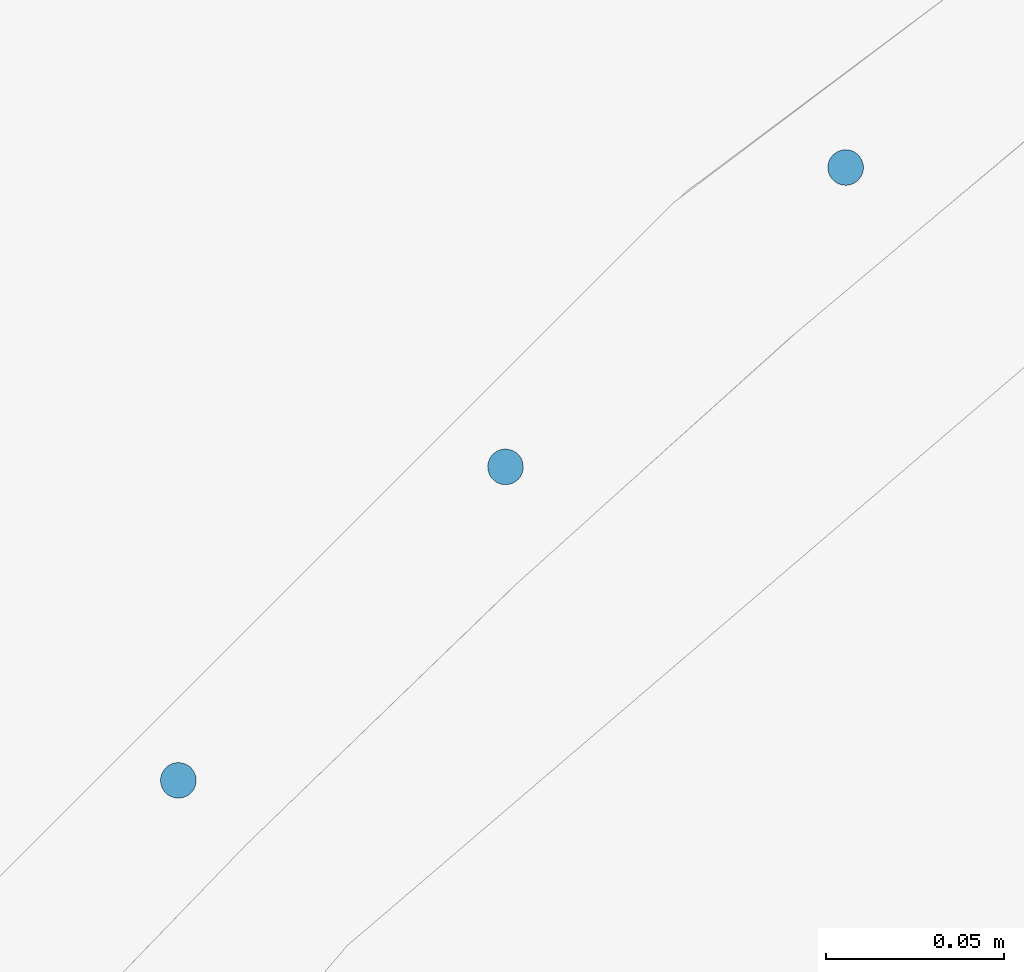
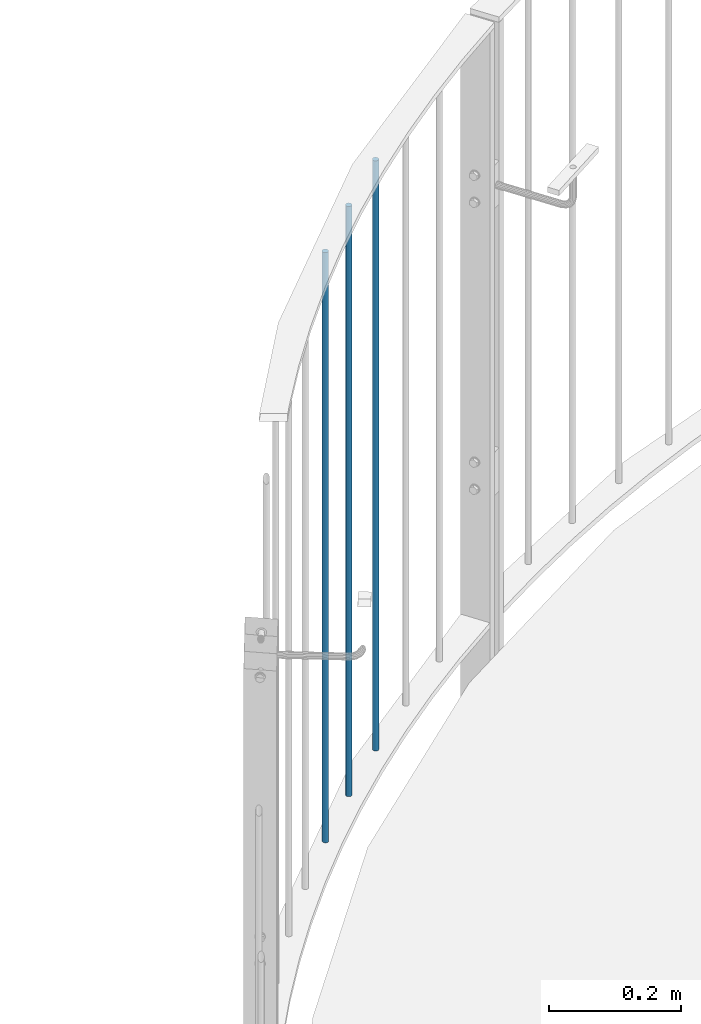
# One storey, part 66 of 296: 3 columns.
"""IFC2X3 building model written with IfcOpenShell, lengths in millimetres."""

from ifc_helpers import new_model, entity, si_unit, converted_unit, frame, origin, origin_with_axes, origin_2d, place, context, project, spatial, circle, extrude, material, element, save


model = new_model("IFC2X3")

# Units and contexts
model_context = context("Model", 3, precision=1e-09, world=origin_with_axes())
ifc_project = project(units=[si_unit("LENGTHUNIT", "METRE", prefix="MILLI"), si_unit("AREAUNIT", "SQUARE_METRE"), si_unit("VOLUMEUNIT", "CUBIC_METRE"), converted_unit("PLANEANGLEUNIT", "DEGREE", entity("IfcPlaneAngleMeasure", 0.01745329), si_unit("PLANEANGLEUNIT", "RADIAN"), dimensions=[0, 0, 0, 0, 0, 0, 0])], contexts=[model_context])

# Site, building, storey
site_placement = place(None, origin_with_axes())
site = spatial("IfcSite", under=ifc_project, at=site_placement, Name="TZD-S?d | Treppenhausgel?nder", CompositionType="ELEMENT")
building_placement = place(site_placement, origin_with_axes())
building = spatial("IfcBuilding", under=site, at=building_placement, Name="Struktur 1", CompositionType="ELEMENT")
storey_placement = place(building_placement, origin_with_axes())
storey = spatial("IfcBuildingStorey", under=building, at=storey_placement, Name="Default Storey", CompositionType="ELEMENT", Elevation=0.0)

# Columns
ifc_material = material(Name="S235JR")
for number, where, z_axis, x_axis in (
    (1, (809.371309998, 2014.545248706, 2450.0), (0.0, 0.0, 1.0), (0.422618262, 0.906307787, 0.0)),
    (2, (901.029416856, 2102.391557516, 2450.0), (0.0, 0.0, 1.0), (0.422618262, 0.906307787, 0.0)),
    (3, (996.33407058, 2186.267689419, 2450.0), (0.0, 0.0, 1.0), (0.422618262, 0.906307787, 0.0)),
):
    element("IfcColumn", number, at=place(None, frame(where, z_axis=z_axis, x_axis=x_axis)), inside=storey, material=ifc_material, Name="-", ObjectType="-", context=model_context, shape_type="SweptSolid", body=[
        extrude(circle(Radius=5.0, at=origin_2d()), origin(), (0.0, 0.0, 1.0), 1090.0),
    ])

save(model, "model.ifc")
